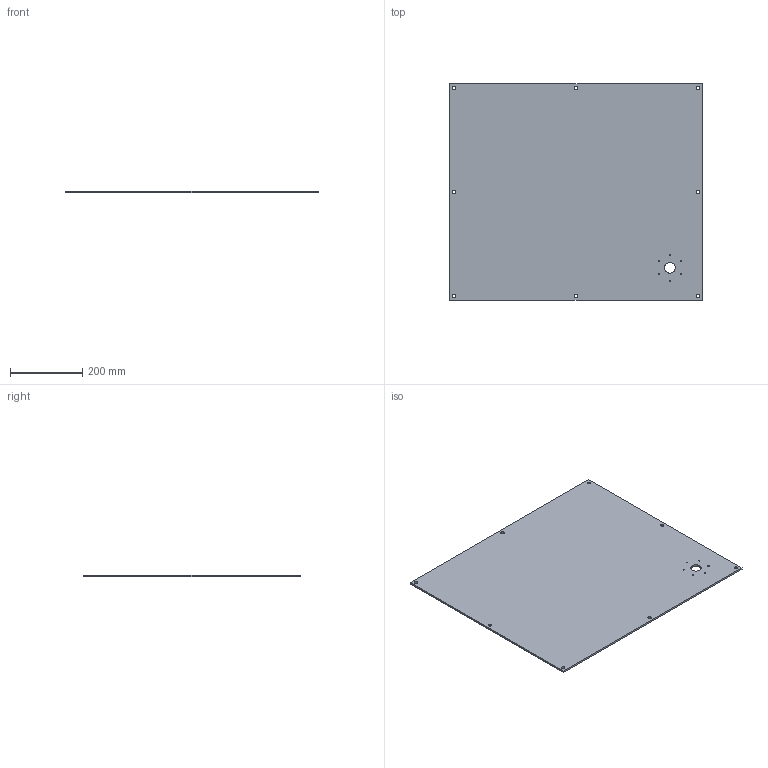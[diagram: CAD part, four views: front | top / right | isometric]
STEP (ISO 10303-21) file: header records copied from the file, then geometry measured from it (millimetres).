
FILE_DESCRIPTION (( 'STEP AP214' ), '1' );
FILE_NAME ('viko.STEP', '2019-07-25T06:53:30', ( '' ), ( '' ), 'SwSTEP 2.0', 'SolidWorks 2016', '' );
FILE_SCHEMA (( 'AUTOMOTIVE_DESIGN' ));
Length unit declared in the file: millimetre
Products named in the file (1): viko
Bounding box: 700 x 600 x 5 mm (x, y, z)
Volume: 2079561.5 mm3; surface area: 860941.5 mm2
Topology: 1 solids, 1 shells, 70 faces, 182 edges, 116 vertices
Faces by surface type: cylinder 46, plane 16, torus 8
Entity records: 2272 total; most frequent: DIRECTION 424, CARTESIAN_POINT 369, ORIENTED_EDGE 364, EDGE_CURVE 182, AXIS2_PLACEMENT_3D 171, VERTEX_POINT 116, EDGE_LOOP 102, CIRCLE 100
